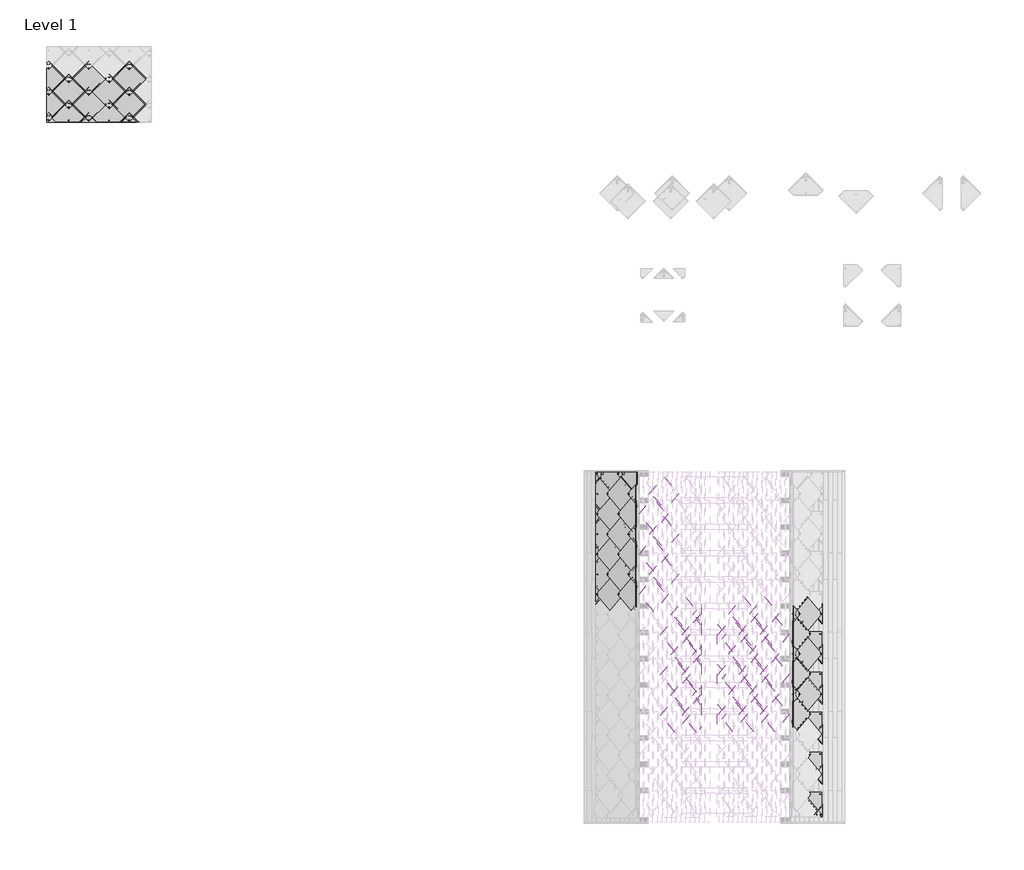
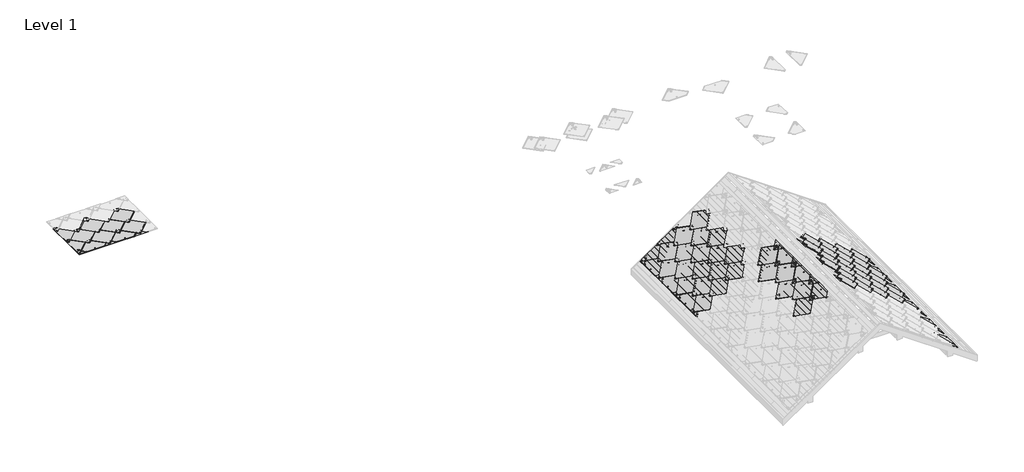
# One storey, part 5 of 6: 90 proxies.
"""IFC4 building model written with IfcOpenShell, lengths in millimetres."""

from ifc_helpers import new_model, si_unit, origin, place, context, project, spatial, transform, mapped, element, save
from components import generic_models_2e27a9fd, corner_bottom_big_right_black_b907a22d, corner_bottom_small_left_black_798ab3c3, roofing_panels_sunstyle_tile_non_pv_shingle_non_pv_shingle_be952c39, roofing_panels_sunstyle_tile_shingle_bottom_shingle_bottom_4eb983e8, roofing_panels_sunstyle_tile_shingle_bottom_small_shingle_761d3557, roofing_panels_sunstyle_tile_shingle_left_shingle_left_black_59aad734, roofing_panels_sunstyle_tile_shingle_top_shingle_top_black_4c6098d4, roofing_panels_sunstyle_tile_shingle_top_small_shingle_top_a40e7fca

model = new_model("IFC4")

# Units and contexts
model_context = context("Model", 3, world=origin())
ifc_project = project(units=[si_unit("LENGTHUNIT", "METRE", prefix="MILLI")], contexts=[model_context])

# Site, building, storey
site = spatial("IfcSite", under=ifc_project)
building = spatial("IfcBuilding", under=site)
storey = spatial("IfcBuildingStorey", under=building, Name="Level 1", Elevation=0.0)

# Proxies
placement = place(None, origin())
generic_models_shape = generic_models_2e27a9fd(model_context)
element("IfcBuildingElementProxy", 1, Name="Roofing_Solar-Panels_SunStyle_Shingle-Sunstyle : Shingle Sunstyle - Black", ObjectType="Roofing_Solar-Panels_SunStyle_Shingle-Sunstyle : Shingle Sunstyle - Black", at=placement, inside=storey, context=model_context, shape_type="MappedRepresentation", body=[
    mapped(generic_models_shape, transform((-308.6593094, 3253.9702738, 1769.3981017), x_axis=(0.0, -1.0, 0.0), y_axis=(0.8191520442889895, 0.0, 0.5735764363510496), z_axis=(-0.5735764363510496, 0.0, 0.8191520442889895))),
])
element("IfcBuildingElementProxy", 2, Name="Roofing_Solar-Panels_SunStyle_Shingle-Sunstyle : Shingle Sunstyle - Black", ObjectType="Roofing_Solar-Panels_SunStyle_Shingle-Sunstyle : Shingle Sunstyle - Black", at=placement, inside=storey, context=model_context, shape_type="MappedRepresentation", body=[
    mapped(generic_models_shape, transform((-958.5053556, 3254.19294, 1314.3710015), x_axis=(0.0, -1.0, 0.0), y_axis=(0.8191520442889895, 0.0, 0.5735764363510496), z_axis=(-0.5735764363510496, 0.0, 0.8191520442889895))),
])
element("IfcBuildingElementProxy", 3, Name="Roofing_Solar-Panels_SunStyle_Shingle-Sunstyle : Shingle Sunstyle - Black", ObjectType="Roofing_Solar-Panels_SunStyle_Shingle-Sunstyle : Shingle Sunstyle - Black", at=placement, inside=storey, context=model_context, shape_type="MappedRepresentation", body=[
    mapped(generic_models_shape, transform((-1608.1702227, 3253.5882893, 859.4707643), x_axis=(0.0, -1.0, 0.0), y_axis=(0.8191520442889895, 0.0, 0.5735764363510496), z_axis=(-0.5735764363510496, 0.0, 0.8191520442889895))),
])
element("IfcBuildingElementProxy", 4, Name="Roofing_Solar-Panels_SunStyle_Shingle-Sunstyle : Shingle Sunstyle - Black", ObjectType="Roofing_Solar-Panels_SunStyle_Shingle-Sunstyle : Shingle Sunstyle - Black", at=placement, inside=storey, context=model_context, shape_type="MappedRepresentation", body=[
    mapped(generic_models_shape, transform((-1264.7737463, 2645.4402376, 1099.9195656), x_axis=(0.0, -1.0, 0.0), y_axis=(0.8191520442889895, 0.0, 0.5735764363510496), z_axis=(-0.5735764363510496, 0.0, 0.8191520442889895))),
])
element("IfcBuildingElementProxy", 5, Name="Roofing_Solar-Panels_SunStyle_Shingle-Sunstyle : Shingle Sunstyle - Black", ObjectType="Roofing_Solar-Panels_SunStyle_Shingle-Sunstyle : Shingle Sunstyle - Black", at=placement, inside=storey, context=model_context, shape_type="MappedRepresentation", body=[
    mapped(generic_models_shape, transform((-1912.3807943, 2645.3657638, 646.4602288), x_axis=(0.0, -1.0, 0.0), y_axis=(0.8191520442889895, 0.0, 0.5735764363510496), z_axis=(-0.5735764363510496, 0.0, 0.8191520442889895))),
])
element("IfcBuildingElementProxy", 6, Name="Roofing_Solar-Panels_SunStyle_Shingle-Sunstyle : Shingle Sunstyle - Black", ObjectType="Roofing_Solar-Panels_SunStyle_Shingle-Sunstyle : Shingle Sunstyle - Black", at=placement, inside=storey, context=model_context, shape_type="MappedRepresentation", body=[
    mapped(generic_models_shape, transform((-617.0029647, 2645.5136672, 1553.4935499), x_axis=(0.0, -1.0, 0.0), y_axis=(0.8191520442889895, 0.0, 0.5735764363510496), z_axis=(-0.5735764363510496, 0.0, 0.8191520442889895))),
])
element("IfcBuildingElementProxy", 7, Name="Roofing_Solar-Panels_SunStyle_Shingle-Sunstyle : Shingle Sunstyle - Black", ObjectType="Roofing_Solar-Panels_SunStyle_Shingle-Sunstyle : Shingle Sunstyle - Black", at=placement, inside=storey, context=model_context, shape_type="MappedRepresentation", body=[
    mapped(generic_models_shape, transform((-617.0029647, 1425.9321402, 1553.4935499), x_axis=(0.0, -1.0, 0.0), y_axis=(0.8191520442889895, 0.0, 0.5735764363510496), z_axis=(-0.5735764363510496, 0.0, 0.8191520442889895))),
])
element("IfcBuildingElementProxy", 8, Name="Roofing_Solar-Panels_SunStyle_Shingle-Sunstyle : Shingle Sunstyle - Black", ObjectType="Roofing_Solar-Panels_SunStyle_Shingle-Sunstyle : Shingle Sunstyle - Black", at=placement, inside=storey, context=model_context, shape_type="MappedRepresentation", body=[
    mapped(generic_models_shape, transform((-308.6593094, 2034.3887468, 1769.3981017), x_axis=(0.0, -1.0, 0.0), y_axis=(0.8191520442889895, 0.0, 0.5735764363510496), z_axis=(-0.5735764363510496, 0.0, 0.8191520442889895))),
])
element("IfcBuildingElementProxy", 9, Name="Roofing_Solar-Panels_SunStyle_Shingle-Sunstyle : Shingle Sunstyle - Black", ObjectType="Roofing_Solar-Panels_SunStyle_Shingle-Sunstyle : Shingle Sunstyle - Black", at=placement, inside=storey, context=model_context, shape_type="MappedRepresentation", body=[
    mapped(generic_models_shape, transform((-617.0029647, 206.3506132, 1553.4935499), x_axis=(0.0, -1.0, 0.0), y_axis=(0.8191520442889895, 0.0, 0.5735764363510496), z_axis=(-0.5735764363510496, 0.0, 0.8191520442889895))),
])
element("IfcBuildingElementProxy", 10, Name="Roofing_Solar-Panels_SunStyle_Shingle-Sunstyle : Shingle Sunstyle - Black", ObjectType="Roofing_Solar-Panels_SunStyle_Shingle-Sunstyle : Shingle Sunstyle - Black", at=placement, inside=storey, context=model_context, shape_type="MappedRepresentation", body=[
    mapped(generic_models_shape, transform((-308.6593094, 814.8072199, 1769.3981017), x_axis=(0.0, -1.0, 0.0), y_axis=(0.8191520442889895, 0.0, 0.5735764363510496), z_axis=(-0.5735764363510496, 0.0, 0.8191520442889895))),
])
element("IfcBuildingElementProxy", 11, Name="Roofing_Solar-Panels_SunStyle_Shingle-Sunstyle : Shingle Sunstyle - Black", ObjectType="Roofing_Solar-Panels_SunStyle_Shingle-Sunstyle : Shingle Sunstyle - Black", at=placement, inside=storey, context=model_context, shape_type="MappedRepresentation", body=[
    mapped(generic_models_shape, transform((26.0313901, -1013.2309138, 2003.7510525), x_axis=(0.0, -1.0, 0.0), y_axis=(0.8191520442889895, 0.0, 0.5735764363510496), z_axis=(-0.5735764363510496, 0.0, 0.8191520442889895))),
])
element("IfcBuildingElementProxy", 12, Name="Roofing_Solar-Panels_SunStyle_Shingle-Sunstyle : Shingle Sunstyle - Black", ObjectType="Roofing_Solar-Panels_SunStyle_Shingle-Sunstyle : Shingle Sunstyle - Black", at=placement, inside=storey, context=model_context, shape_type="MappedRepresentation", body=[
    mapped(generic_models_shape, transform((26.0313901, -2232.8124407, 2003.7510525), x_axis=(0.0, -1.0, 0.0), y_axis=(0.8191520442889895, 0.0, 0.5735764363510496), z_axis=(-0.5735764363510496, 0.0, 0.8191520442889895))),
])
element("IfcBuildingElementProxy", 13, Name="Roofing_Solar-Panels_SunStyle_Shingle-Sunstyle : Shingle Sunstyle - Black", ObjectType="Roofing_Solar-Panels_SunStyle_Shingle-Sunstyle : Shingle Sunstyle - Black", at=placement, inside=storey, context=model_context, shape_type="MappedRepresentation", body=[
    mapped(generic_models_shape, transform((26.0313901, -3452.3939677, 2003.7510525), x_axis=(0.0, -1.0, 0.0), y_axis=(0.8191520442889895, 0.0, 0.5735764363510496), z_axis=(-0.5735764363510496, 0.0, 0.8191520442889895))),
])
element("IfcBuildingElementProxy", 14, Name="Roofing_Solar-Panels_SunStyle_Shingle-Sunstyle : Shingle Sunstyle - Black", ObjectType="Roofing_Solar-Panels_SunStyle_Shingle-Sunstyle : Shingle Sunstyle - Black", at=placement, inside=storey, context=model_context, shape_type="MappedRepresentation", body=[
    mapped(generic_models_shape, transform((345.4802975, -405.6712839, 2227.4315855), x_axis=(0.0, -1.0, 0.0), y_axis=(0.8191520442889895, 0.0, 0.5735764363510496), z_axis=(-0.5735764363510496, 0.0, 0.8191520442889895))),
])
element("IfcBuildingElementProxy", 15, Name="Roofing_Solar-Panels_SunStyle_Shingle-Sunstyle : Shingle Sunstyle - Black", ObjectType="Roofing_Solar-Panels_SunStyle_Shingle-Sunstyle : Shingle Sunstyle - Black", at=placement, inside=storey, context=model_context, shape_type="MappedRepresentation", body=[
    mapped(generic_models_shape, transform((345.4802975, -1625.2528109, 2227.4315855), x_axis=(0.0, -1.0, 0.0), y_axis=(0.8191520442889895, 0.0, 0.5735764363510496), z_axis=(-0.5735764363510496, 0.0, 0.8191520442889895))),
])
element("IfcBuildingElementProxy", 16, Name="Roofing_Solar-Panels_SunStyle_Shingle-Sunstyle : Shingle Sunstyle - Black", ObjectType="Roofing_Solar-Panels_SunStyle_Shingle-Sunstyle : Shingle Sunstyle - Black", at=placement, inside=storey, context=model_context, shape_type="MappedRepresentation", body=[
    mapped(generic_models_shape, transform((345.4802975, -2844.8343378, 2227.4315855), x_axis=(0.0, -1.0, 0.0), y_axis=(0.8191520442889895, 0.0, 0.5735764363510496), z_axis=(-0.5735764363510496, 0.0, 0.8191520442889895))),
])
element("IfcBuildingElementProxy", 17, Name="Roofing_Solar-Panels_SunStyle_Shingle-Sunstyle : Shingle Sunstyle - Black", ObjectType="Roofing_Solar-Panels_SunStyle_Shingle-Sunstyle : Shingle Sunstyle - Black", at=placement, inside=storey, context=model_context, shape_type="MappedRepresentation", body=[
    mapped(generic_models_shape, transform((2380.7504058, -996.1328432, 2008.4956718), x_axis=(0.0, 1.0, 0.0), y_axis=(-0.8191520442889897, 0.0, 0.5735764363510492), z_axis=(0.5735764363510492, 0.0, 0.8191520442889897))),
])
element("IfcBuildingElementProxy", 18, Name="Roofing_Solar-Panels_SunStyle_Shingle-Sunstyle : Shingle Sunstyle - Black", ObjectType="Roofing_Solar-Panels_SunStyle_Shingle-Sunstyle : Shingle Sunstyle - Black", at=placement, inside=storey, context=model_context, shape_type="MappedRepresentation", body=[
    mapped(generic_models_shape, transform((3018.9604222, -995.1134891, 1561.6162073), x_axis=(0.0, 1.0, 0.0), y_axis=(-0.8191520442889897, 0.0, 0.5735764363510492), z_axis=(0.5735764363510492, 0.0, 0.8191520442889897))),
])
element("IfcBuildingElementProxy", 19, Name="Roofing_Solar-Panels_SunStyle_Shingle-Sunstyle : Shingle Sunstyle - Black", ObjectType="Roofing_Solar-Panels_SunStyle_Shingle-Sunstyle : Shingle Sunstyle - Black", at=placement, inside=storey, context=model_context, shape_type="MappedRepresentation", body=[
    mapped(generic_models_shape, transform((2380.7504058, -2211.45106, 2008.4956718), x_axis=(0.0, 1.0, 0.0), y_axis=(-0.8191520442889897, 0.0, 0.5735764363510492), z_axis=(0.5735764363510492, 0.0, 0.8191520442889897))),
])
element("IfcBuildingElementProxy", 20, Name="Roofing_Solar-Panels_SunStyle_Shingle-Sunstyle : Shingle Sunstyle - Black", ObjectType="Roofing_Solar-Panels_SunStyle_Shingle-Sunstyle : Shingle Sunstyle - Black", at=placement, inside=storey, context=model_context, shape_type="MappedRepresentation", body=[
    mapped(generic_models_shape, transform((3018.9604222, -2210.4317059, 1561.6162073), x_axis=(0.0, 1.0, 0.0), y_axis=(-0.8191520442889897, 0.0, 0.5735764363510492), z_axis=(0.5735764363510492, 0.0, 0.8191520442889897))),
])
element("IfcBuildingElementProxy", 21, Name="Roofing_Solar-Panels_SunStyle_Shingle-Sunstyle : Shingle Sunstyle - Black", ObjectType="Roofing_Solar-Panels_SunStyle_Shingle-Sunstyle : Shingle Sunstyle - Black", at=placement, inside=storey, context=model_context, shape_type="MappedRepresentation", body=[
    mapped(generic_models_shape, transform((2699.8330605, -384.3228852, 1785.0715917), x_axis=(0.0, 1.0, 0.0), y_axis=(-0.8191520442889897, 0.0, 0.5735764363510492), z_axis=(0.5735764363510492, 0.0, 0.8191520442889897))),
])
element("IfcBuildingElementProxy", 22, Name="Roofing_Solar-Panels_SunStyle_Shingle-Sunstyle : Shingle Sunstyle - Black", ObjectType="Roofing_Solar-Panels_SunStyle_Shingle-Sunstyle : Shingle Sunstyle - Black", at=placement, inside=storey, context=model_context, shape_type="MappedRepresentation", body=[
    mapped(generic_models_shape, transform((2059.0171476, -384.3228852, 2233.7757245), x_axis=(0.0, 1.0, 0.0), y_axis=(-0.8191520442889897, 0.0, 0.5735764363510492), z_axis=(0.5735764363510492, 0.0, 0.8191520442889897))),
])
element("IfcBuildingElementProxy", 23, Name="Roofing_Solar-Panels_SunStyle_Shingle-Sunstyle : Shingle Sunstyle - Black", ObjectType="Roofing_Solar-Panels_SunStyle_Shingle-Sunstyle : Shingle Sunstyle - Black", at=placement, inside=storey, context=model_context, shape_type="MappedRepresentation", body=[
    mapped(generic_models_shape, transform((2699.8330605, -1599.641102, 1785.0715917), x_axis=(0.0, 1.0, 0.0), y_axis=(-0.8191520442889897, 0.0, 0.5735764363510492), z_axis=(0.5735764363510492, 0.0, 0.8191520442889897))),
])
element("IfcBuildingElementProxy", 24, Name="Roofing_Solar-Panels_SunStyle_Shingle-Sunstyle : Shingle Sunstyle - Black", ObjectType="Roofing_Solar-Panels_SunStyle_Shingle-Sunstyle : Shingle Sunstyle - Black", at=placement, inside=storey, context=model_context, shape_type="MappedRepresentation", body=[
    mapped(generic_models_shape, transform((2059.0171476, -1599.641102, 2233.7757245), x_axis=(0.0, 1.0, 0.0), y_axis=(-0.8191520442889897, 0.0, 0.5735764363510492), z_axis=(0.5735764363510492, 0.0, 0.8191520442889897))),
])
element("IfcBuildingElementProxy", 25, Name="Roofing_Solar-Panels_SunStyle_Shingle-Sunstyle : Shingle Sunstyle - Black", ObjectType="Roofing_Solar-Panels_SunStyle_Shingle-Sunstyle : Shingle Sunstyle - Black", at=placement, inside=storey, context=model_context, shape_type="MappedRepresentation", body=[
    mapped(generic_models_shape, transform((2699.8330605, -2814.9593188, 1785.0715917), x_axis=(0.0, 1.0, 0.0), y_axis=(-0.8191520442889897, 0.0, 0.5735764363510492), z_axis=(0.5735764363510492, 0.0, 0.8191520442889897))),
])
element("IfcBuildingElementProxy", 26, Name="Roofing_Solar-Panels_SunStyle_Shingle-Sunstyle : Shingle Sunstyle - Black", ObjectType="Roofing_Solar-Panels_SunStyle_Shingle-Sunstyle : Shingle Sunstyle - Black", at=placement, inside=storey, context=model_context, shape_type="MappedRepresentation", body=[
    mapped(generic_models_shape, transform((2059.0171476, -2814.9593188, 2233.7757245), x_axis=(0.0, 1.0, 0.0), y_axis=(-0.8191520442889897, 0.0, 0.5735764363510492), z_axis=(0.5735764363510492, 0.0, 0.8191520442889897))),
])
element("IfcBuildingElementProxy", 27, Name="Roofing_Solar-Panels_SunStyle_Shingle-Sunstyle : Shingle Sunstyle - Black", ObjectType="Roofing_Solar-Panels_SunStyle_Shingle-Sunstyle : Shingle Sunstyle - Black", at=placement, inside=storey, context=model_context, shape_type="MappedRepresentation", body=[
    mapped(generic_models_shape, transform((2380.7504058, -3426.7692768, 2008.4956718), x_axis=(0.0, 1.0, 0.0), y_axis=(-0.8191520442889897, 0.0, 0.5735764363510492), z_axis=(0.5735764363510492, 0.0, 0.8191520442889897))),
])
element("IfcBuildingElementProxy", 28, Name="Roofing_Solar-Panels_SunStyle_Shingle-Sunstyle : Shingle Sunstyle - Black", ObjectType="Roofing_Solar-Panels_SunStyle_Shingle-Sunstyle : Shingle Sunstyle - Black", at=placement, inside=storey, context=model_context, shape_type="MappedRepresentation", body=[
    mapped(generic_models_shape, transform((3018.9604222, -3425.7499227, 1561.6162073), x_axis=(0.0, 1.0, 0.0), y_axis=(-0.8191520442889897, 0.0, 0.5735764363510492), z_axis=(0.5735764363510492, 0.0, 0.8191520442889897))),
])
element("IfcBuildingElementProxy", 29, Name="Roofing_Solar-Panels_SunStyle_Shingle-Sunstyle : Shingle Sunstyle - Black", ObjectType="Roofing_Solar-Panels_SunStyle_Shingle-Sunstyle : Shingle Sunstyle - Black", at=placement, inside=storey, context=model_context, shape_type="MappedRepresentation", body=[
    mapped(generic_models_shape, transform((-958.5053556, 2034.19294, 1314.3710015), x_axis=(0.0, -1.0, 0.0), y_axis=(0.8191520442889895, 0.0, 0.5735764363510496), z_axis=(-0.5735764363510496, 0.0, 0.8191520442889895))),
])
element("IfcBuildingElementProxy", 30, Name="Roofing_Solar-Panels_SunStyle_Shingle-Sunstyle : Shingle Sunstyle - Black", ObjectType="Roofing_Solar-Panels_SunStyle_Shingle-Sunstyle : Shingle Sunstyle - Black", at=placement, inside=storey, context=model_context, shape_type="MappedRepresentation", body=[
    mapped(generic_models_shape, transform((-1608.1702227, 2033.5882893, 859.4707643), x_axis=(0.0, -1.0, 0.0), y_axis=(0.8191520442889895, 0.0, 0.5735764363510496), z_axis=(-0.5735764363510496, 0.0, 0.8191520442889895))),
])
element("IfcBuildingElementProxy", 31, Name="Roofing_Solar-Panels_SunStyle_Shingle-Sunstyle : Shingle Sunstyle - Black", ObjectType="Roofing_Solar-Panels_SunStyle_Shingle-Sunstyle : Shingle Sunstyle - Black", at=placement, inside=storey, context=model_context, shape_type="MappedRepresentation", body=[
    mapped(generic_models_shape, transform((-958.5053556, 814.984463, 1314.3710015), x_axis=(0.0, -1.0, 0.0), y_axis=(0.8191520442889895, 0.0, 0.5735764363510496), z_axis=(-0.5735764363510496, 0.0, 0.8191520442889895))),
])
element("IfcBuildingElementProxy", 32, Name="Roofing_Solar-Panels_SunStyle_Shingle-Sunstyle : Shingle Sunstyle - Black", ObjectType="Roofing_Solar-Panels_SunStyle_Shingle-Sunstyle : Shingle Sunstyle - Black", at=placement, inside=storey, context=model_context, shape_type="MappedRepresentation", body=[
    mapped(generic_models_shape, transform((-1608.1702227, 814.3798123, 859.4707643), x_axis=(0.0, -1.0, 0.0), y_axis=(0.8191520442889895, 0.0, 0.5735764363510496), z_axis=(-0.5735764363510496, 0.0, 0.8191520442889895))),
])
element("IfcBuildingElementProxy", 33, Name="Roofing_Solar-Panels_SunStyle_Shingle-Sunstyle : Shingle Sunstyle - Black", ObjectType="Roofing_Solar-Panels_SunStyle_Shingle-Sunstyle : Shingle Sunstyle - Black", at=placement, inside=storey, context=model_context, shape_type="MappedRepresentation", body=[
    mapped(generic_models_shape, transform((-1264.7737463, 1425.4402376, 1099.9195656), x_axis=(0.0, -1.0, 0.0), y_axis=(0.8191520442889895, 0.0, 0.5735764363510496), z_axis=(-0.5735764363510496, 0.0, 0.8191520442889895))),
])
element("IfcBuildingElementProxy", 34, Name="Roofing_Solar-Panels_SunStyle_Shingle-Sunstyle : Shingle Sunstyle - Black", ObjectType="Roofing_Solar-Panels_SunStyle_Shingle-Sunstyle : Shingle Sunstyle - Black", at=placement, inside=storey, context=model_context, shape_type="MappedRepresentation", body=[
    mapped(generic_models_shape, transform((-1912.3807943, 1425.3657638, 646.4602288), x_axis=(0.0, -1.0, 0.0), y_axis=(0.8191520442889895, 0.0, 0.5735764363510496), z_axis=(-0.5735764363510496, 0.0, 0.8191520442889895))),
])
element("IfcBuildingElementProxy", 35, Name="Roofing_Solar-Panels_SunStyle_Shingle-Sunstyle : Shingle Sunstyle - Black", ObjectType="Roofing_Solar-Panels_SunStyle_Shingle-Sunstyle : Shingle Sunstyle - Black", at=placement, inside=storey, context=model_context, shape_type="MappedRepresentation", body=[
    mapped(generic_models_shape, transform((-1264.7737463, 205.4402376, 1099.9195656), x_axis=(0.0, -1.0, 0.0), y_axis=(0.8191520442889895, 0.0, 0.5735764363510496), z_axis=(-0.5735764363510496, 0.0, 0.8191520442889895))),
])
element("IfcBuildingElementProxy", 36, Name="Roofing_Solar-Panels_SunStyle_Shingle-Sunstyle : Shingle Sunstyle - Black", ObjectType="Roofing_Solar-Panels_SunStyle_Shingle-Sunstyle : Shingle Sunstyle - Black", at=placement, inside=storey, context=model_context, shape_type="MappedRepresentation", body=[
    mapped(generic_models_shape, transform((-1912.3807943, 205.3657638, 646.4602288), x_axis=(0.0, -1.0, 0.0), y_axis=(0.8191520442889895, 0.0, 0.5735764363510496), z_axis=(-0.5735764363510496, 0.0, 0.8191520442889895))),
])
element("IfcBuildingElementProxy", 37, Name="Roofing_Solar-Panels_SunStyle_Shingle-Sunstyle : Shingle Sunstyle - Black", ObjectType="Roofing_Solar-Panels_SunStyle_Shingle-Sunstyle : Shingle Sunstyle - Black", at=placement, inside=storey, context=model_context, shape_type="MappedRepresentation", body=[
    mapped(generic_models_shape, transform((3347.42815, -384.1761504, 1331.6206283), x_axis=(0.0, 1.0, 0.0), y_axis=(-0.8191520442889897, 0.0, 0.5735764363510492), z_axis=(0.5735764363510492, 0.0, 0.8191520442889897))),
])
element("IfcBuildingElementProxy", 38, Name="Roofing_Solar-Panels_SunStyle_Shingle-Sunstyle : Shingle Sunstyle - Black", ObjectType="Roofing_Solar-Panels_SunStyle_Shingle-Sunstyle : Shingle Sunstyle - Black", at=placement, inside=storey, context=model_context, shape_type="MappedRepresentation", body=[
    mapped(generic_models_shape, transform((3994.6556947, -384.406562, 878.4270226), x_axis=(0.0, 1.0, 0.0), y_axis=(-0.8191520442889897, 0.0, 0.5735764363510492), z_axis=(0.5735764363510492, 0.0, 0.8191520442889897))),
])
element("IfcBuildingElementProxy", 39, Name="Roofing_Solar-Panels_SunStyle_Shingle-Sunstyle : Shingle Sunstyle - Black", ObjectType="Roofing_Solar-Panels_SunStyle_Shingle-Sunstyle : Shingle Sunstyle - Black", at=placement, inside=storey, context=model_context, shape_type="MappedRepresentation", body=[
    mapped(generic_models_shape, transform((3668.6586054, -990.8381584, 1106.6926419), x_axis=(0.0, 1.0, 0.0), y_axis=(-0.8191520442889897, 0.0, 0.5735764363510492), z_axis=(0.5735764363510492, 0.0, 0.8191520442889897))),
])
element("IfcBuildingElementProxy", 40, Name="Roofing_Solar-Panels_SunStyle_Shingle-Sunstyle : Shingle Sunstyle - Black", ObjectType="Roofing_Solar-Panels_SunStyle_Shingle-Sunstyle : Shingle Sunstyle - Black", at=placement, inside=storey, context=model_context, shape_type="MappedRepresentation", body=[
    mapped(generic_models_shape, transform((3347.42815, -1599.7013354, 1331.6206283), x_axis=(0.0, 1.0, 0.0), y_axis=(-0.8191520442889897, 0.0, 0.5735764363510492), z_axis=(0.5735764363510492, 0.0, 0.8191520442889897))),
])
element("IfcBuildingElementProxy", 41, Name="Roofing_Solar-Panels_SunStyle_Shingle-Sunstyle : Shingle Sunstyle - Black", ObjectType="Roofing_Solar-Panels_SunStyle_Shingle-Sunstyle : Shingle Sunstyle - Black", at=placement, inside=storey, context=model_context, shape_type="MappedRepresentation", body=[
    mapped(generic_models_shape, transform((3994.6556947, -1599.9317469, 878.4270226), x_axis=(0.0, 1.0, 0.0), y_axis=(-0.8191520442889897, 0.0, 0.5735764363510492), z_axis=(0.5735764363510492, 0.0, 0.8191520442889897))),
])
element("IfcBuildingElementProxy", 42, Name="Roofing_Solar-Panels_SunStyle_Shingle-Sunstyle : Shingle Sunstyle - Black", ObjectType="Roofing_Solar-Panels_SunStyle_Shingle-Sunstyle : Shingle Sunstyle - Black", at=placement, inside=storey, context=model_context, shape_type="MappedRepresentation", body=[
    mapped(generic_models_shape, transform((3668.6586054, -2206.3633434, 1106.6926419), x_axis=(0.0, 1.0, 0.0), y_axis=(-0.8191520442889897, 0.0, 0.5735764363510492), z_axis=(0.5735764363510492, 0.0, 0.8191520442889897))),
])
element("IfcBuildingElementProxy", 43, Name="Roofing_Solar-Panels_SunStyle_Shingle-Sunstyle : Shingle Sunstyle - Black", ObjectType="Roofing_Solar-Panels_SunStyle_Shingle-Sunstyle : Shingle Sunstyle - Black", at=placement, inside=storey, context=model_context, shape_type="MappedRepresentation", body=[
    mapped(generic_models_shape, transform((3347.42815, -2814.7013354, 1331.6206283), x_axis=(0.0, 1.0, 0.0), y_axis=(-0.8191520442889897, 0.0, 0.5735764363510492), z_axis=(0.5735764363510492, 0.0, 0.8191520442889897))),
])
element("IfcBuildingElementProxy", 44, Name="Roofing_Solar-Panels_SunStyle_Shingle-Sunstyle : Shingle Sunstyle - Black", ObjectType="Roofing_Solar-Panels_SunStyle_Shingle-Sunstyle : Shingle Sunstyle - Black", at=placement, inside=storey, context=model_context, shape_type="MappedRepresentation", body=[
    mapped(generic_models_shape, transform((3994.6556947, -2814.9317469, 878.4270226), x_axis=(0.0, 1.0, 0.0), y_axis=(-0.8191520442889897, 0.0, 0.5735764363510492), z_axis=(0.5735764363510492, 0.0, 0.8191520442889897))),
])
element("IfcBuildingElementProxy", 45, Name="Roofing_Solar-Panels_SunStyle_Shingle-Sunstyle : Shingle Sunstyle - Black", ObjectType="Roofing_Solar-Panels_SunStyle_Shingle-Sunstyle : Shingle Sunstyle - Black", at=placement, inside=storey, context=model_context, shape_type="MappedRepresentation", body=[
    mapped(generic_models_shape, transform((3668.6586054, -3421.3633434, 1106.6926419), x_axis=(0.0, 1.0, 0.0), y_axis=(-0.8191520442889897, 0.0, 0.5735764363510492), z_axis=(0.5735764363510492, 0.0, 0.8191520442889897))),
])
element("IfcBuildingElementProxy", 46, Name="Roofing_Solar-Panels_SunStyle_Shingle-Sunstyle : Shingle Sunstyle - Black", ObjectType="Roofing_Solar-Panels_SunStyle_Shingle-Sunstyle : Shingle Sunstyle - Black", at=placement, inside=storey, context=model_context, shape_type="MappedRepresentation", body=[
    mapped(generic_models_shape, transform((1745.7492441, -1000.8711077, 2453.128272), x_axis=(0.0, 1.0, 0.0), y_axis=(-0.8191520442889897, 0.0, 0.5735764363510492), z_axis=(0.5735764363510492, 0.0, 0.8191520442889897))),
])
element("IfcBuildingElementProxy", 47, Name="Roofing_Solar-Panels_SunStyle_Shingle-Sunstyle : Shingle Sunstyle - Black", ObjectType="Roofing_Solar-Panels_SunStyle_Shingle-Sunstyle : Shingle Sunstyle - Black", at=placement, inside=storey, context=model_context, shape_type="MappedRepresentation", body=[
    mapped(generic_models_shape, transform((1745.7492441, -2210.8711077, 2453.128272), x_axis=(0.0, 1.0, 0.0), y_axis=(-0.8191520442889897, 0.0, 0.5735764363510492), z_axis=(0.5735764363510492, 0.0, 0.8191520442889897))),
])
element("IfcBuildingElementProxy", 48, Name="Roofing_Solar-Panels_SunStyle_Shingle-Sunstyle : Shingle Sunstyle - Black", ObjectType="Roofing_Solar-Panels_SunStyle_Shingle-Sunstyle : Shingle Sunstyle - Black", at=placement, inside=storey, context=model_context, shape_type="MappedRepresentation", body=[
    mapped(generic_models_shape, transform((1745.7492441, -3425.8711077, 2453.128272), x_axis=(0.0, 1.0, 0.0), y_axis=(-0.8191520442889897, 0.0, 0.5735764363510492), z_axis=(0.5735764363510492, 0.0, 0.8191520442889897))),
])
corner_bottom_big_right_black_shape = corner_bottom_big_right_black_b907a22d(model_context)
element("IfcBuildingElementProxy", 49, Name="Roofing_Panels_SunStyle_Tile_Corner-Bottom-Big-Right : Corner Bottom Big Right - Black", ObjectType="Roofing_Panels_SunStyle_Tile_Corner-Bottom-Big-Right : Corner Bottom Big Right - Black", at=placement, inside=storey, context=model_context, shape_type="MappedRepresentation", body=[
    mapped(corner_bottom_big_right_black_shape, transform((4392.2243906, -990.8381584, 600.0464247), x_axis=(0.0, 1.0, 0.0), y_axis=(-0.8191520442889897, 0.0, 0.5735764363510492), z_axis=(0.5735764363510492, 0.0, 0.8191520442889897))),
])
element("IfcBuildingElementProxy", 50, Name="Roofing_Panels_SunStyle_Tile_Corner-Bottom-Big-Right : Corner Bottom Big Right - Black", ObjectType="Roofing_Panels_SunStyle_Tile_Corner-Bottom-Big-Right : Corner Bottom Big Right - Black", at=placement, inside=storey, context=model_context, shape_type="MappedRepresentation", body=[
    mapped(corner_bottom_big_right_black_shape, transform((4392.2243906, -2206.3633434, 600.0464247), x_axis=(0.0, 1.0, 0.0), y_axis=(-0.8191520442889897, 0.0, 0.5735764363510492), z_axis=(0.5735764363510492, 0.0, 0.8191520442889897))),
])
element("IfcBuildingElementProxy", 51, Name="Roofing_Panels_SunStyle_Tile_Corner-Bottom-Big-Right : Corner Bottom Big Right - Black", ObjectType="Roofing_Panels_SunStyle_Tile_Corner-Bottom-Big-Right : Corner Bottom Big Right - Black", at=placement, inside=storey, context=model_context, shape_type="MappedRepresentation", body=[
    mapped(corner_bottom_big_right_black_shape, transform((4392.2243906, -3421.3633434, 600.0464247), x_axis=(0.0, 1.0, 0.0), y_axis=(-0.8191520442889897, 0.0, 0.5735764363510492), z_axis=(0.5735764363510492, 0.0, 0.8191520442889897))),
])
element("IfcBuildingElementProxy", 52, Name="Roofing_Panels_SunStyle_Tile_Corner-Bottom-Big-Right : Corner Bottom Big Right - Black", ObjectType="Roofing_Panels_SunStyle_Tile_Corner-Bottom-Big-Right : Corner Bottom Big Right - Black", at=placement, inside=storey, context=model_context, shape_type="MappedRepresentation", body=[
    mapped(corner_bottom_big_right_black_shape, transform((4392.2243906, -4636.3633434, 600.0464247), x_axis=(0.0, 1.0, 0.0), y_axis=(-0.8191520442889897, 0.0, 0.5735764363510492), z_axis=(0.5735764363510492, 0.0, 0.8191520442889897))),
])
element("IfcBuildingElementProxy", 53, Name="Roofing_Panels_SunStyle_Tile_Corner-Bottom-Big-Right : Corner Bottom Big Right - Black", ObjectType="Roofing_Panels_SunStyle_Tile_Corner-Bottom-Big-Right : Corner Bottom Big Right - Black", at=placement, inside=storey, context=model_context, shape_type="MappedRepresentation", body=[
    mapped(corner_bottom_big_right_black_shape, transform((4392.2243906, -5851.3633434, 600.0464247), x_axis=(0.0, 1.0, 0.0), y_axis=(-0.8191520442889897, 0.0, 0.5735764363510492), z_axis=(0.5735764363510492, 0.0, 0.8191520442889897))),
])
corner_bottom_small_left_black_shape = corner_bottom_small_left_black_798ab3c3(model_context)
element("IfcBuildingElementProxy", 54, Name="Roofing_Panels_SunStyle_Tile_Corner-Bottom-Small-Left : Corner Bottom Small Left - Black", ObjectType="Roofing_Panels_SunStyle_Tile_Corner-Bottom-Small-Left : Corner Bottom Small Left - Black", at=placement, inside=storey, context=model_context, shape_type="MappedRepresentation", body=[
    mapped(corner_bottom_small_left_black_shape, transform((-2645.2878311, 3865.0951942, 133.2731968), x_axis=(0.0, -1.0, 0.0), y_axis=(0.8191520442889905, 0.0, 0.5735764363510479), z_axis=(-0.5735764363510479, 0.0, 0.8191520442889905))),
])
element("IfcBuildingElementProxy", 55, Name="Roofing_Panels_SunStyle_Tile_Corner-Bottom-Small-Left : Corner Bottom Small Left - Black", ObjectType="Roofing_Panels_SunStyle_Tile_Corner-Bottom-Small-Left : Corner Bottom Small Left - Black", at=placement, inside=storey, context=model_context, shape_type="MappedRepresentation", body=[
    mapped(corner_bottom_small_left_black_shape, transform((4722.7400772, -6467.9320566, 368.6168495), x_axis=(0.0, 1.0, 0.0), y_axis=(-0.8191520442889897, 0.0, 0.5735764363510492), z_axis=(0.5735764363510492, 0.0, 0.8191520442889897))),
])
element("IfcBuildingElementProxy", 56, Name="Roofing_Panels_SunStyle_Tile_Corner-Bottom-Small-Left : Corner Bottom Small Left - Black", ObjectType="Roofing_Panels_SunStyle_Tile_Corner-Bottom-Small-Left : Corner Bottom Small Left - Black", at=placement, inside=storey, context=model_context, shape_type="MappedRepresentation", body=[
    mapped(corner_bottom_small_left_black_shape, transform((-18987.0193526, 14216.490861, 0.0), x_axis=(1.0, 0.0, 0.0), y_axis=(0.0, 1.0, 0.0), z_axis=(0.0, 0.0, 1.0))),
])
roofing_panels_sunstyle_tile_non_pv_shingle_non_pv_shingle_shape = roofing_panels_sunstyle_tile_non_pv_shingle_non_pv_shingle_be952c39(model_context)
element("IfcBuildingElementProxy", 57, Name="Roofing_Panels_SunStyle_Tile_Non-PV-Shingle : Non PV Shingle - Black", ObjectType="Roofing_Panels_SunStyle_Tile_Non-PV-Shingle : Non PV Shingle - Black", at=placement, inside=storey, context=model_context, shape_type="MappedRepresentation", body=[
    mapped(roofing_panels_sunstyle_tile_non_pv_shingle_non_pv_shingle_shape, transform((-16541.4625549, 15859.3976163, 0.0), x_axis=(1.0, 0.0, 0.0), y_axis=(0.0, 1.0, 0.0), z_axis=(0.0, 0.0, 1.0))),
])
element("IfcBuildingElementProxy", 58, Name="Roofing_Panels_SunStyle_Tile_Non-PV-Shingle : Non PV Shingle - Black", ObjectType="Roofing_Panels_SunStyle_Tile_Non-PV-Shingle : Non PV Shingle - Black", at=placement, inside=storey, context=model_context, shape_type="MappedRepresentation", body=[
    mapped(roofing_panels_sunstyle_tile_non_pv_shingle_non_pv_shingle_shape, transform((-17764.4246151, 15861.2891061, 0.0), x_axis=(1.0, 0.0, 0.0), y_axis=(0.0, 1.0, 0.0), z_axis=(0.0, 0.0, 1.0))),
])
element("IfcBuildingElementProxy", 59, Name="Roofing_Panels_SunStyle_Tile_Non-PV-Shingle : Non PV Shingle - Black", ObjectType="Roofing_Panels_SunStyle_Tile_Non-PV-Shingle : Non PV Shingle - Black", at=placement, inside=storey, context=model_context, shape_type="MappedRepresentation", body=[
    mapped(roofing_panels_sunstyle_tile_non_pv_shingle_non_pv_shingle_shape, transform((-18375.6614882, 15465.802766, 0.0), x_axis=(1.0, 0.0, 0.0), y_axis=(0.0, 1.0, 0.0), z_axis=(0.0, 0.0, 1.0))),
])
element("IfcBuildingElementProxy", 60, Name="Roofing_Panels_SunStyle_Tile_Non-PV-Shingle : Non PV Shingle - Black", ObjectType="Roofing_Panels_SunStyle_Tile_Non-PV-Shingle : Non PV Shingle - Black", at=placement, inside=storey, context=model_context, shape_type="MappedRepresentation", body=[
    mapped(roofing_panels_sunstyle_tile_non_pv_shingle_non_pv_shingle_shape, transform((-17764.4246151, 15073.1445066, 0.0), x_axis=(1.0, 0.0, 0.0), y_axis=(0.0, 1.0, 0.0), z_axis=(0.0, 0.0, 1.0))),
])
element("IfcBuildingElementProxy", 61, Name="Roofing_Panels_SunStyle_Tile_Non-PV-Shingle : Non PV Shingle - Black", ObjectType="Roofing_Panels_SunStyle_Tile_Non-PV-Shingle : Non PV Shingle - Black", at=placement, inside=storey, context=model_context, shape_type="MappedRepresentation", body=[
    mapped(roofing_panels_sunstyle_tile_non_pv_shingle_non_pv_shingle_shape, transform((-17152.8625549, 15466.1580316, 0.0), x_axis=(1.0, 0.0, 0.0), y_axis=(0.0, 1.0, 0.0), z_axis=(0.0, 0.0, 1.0))),
])
element("IfcBuildingElementProxy", 62, Name="Roofing_Panels_SunStyle_Tile_Non-PV-Shingle : Non PV Shingle - Black", ObjectType="Roofing_Panels_SunStyle_Tile_Non-PV-Shingle : Non PV Shingle - Black", at=placement, inside=storey, context=model_context, shape_type="MappedRepresentation", body=[
    mapped(roofing_panels_sunstyle_tile_non_pv_shingle_non_pv_shingle_shape, transform((-16541.4625549, 15071.2530167, 0.0), x_axis=(1.0, 0.0, 0.0), y_axis=(0.0, 1.0, 0.0), z_axis=(0.0, 0.0, 1.0))),
])
roofing_panels_sunstyle_tile_shingle_bottom_shingle_bottom_shape = roofing_panels_sunstyle_tile_shingle_bottom_shingle_bottom_4eb983e8(model_context)
element("IfcBuildingElementProxy", 63, Name="Roofing_Panels_SunStyle_Tile_Shingle-Bottom : Shingle Bottom - Black", ObjectType="Roofing_Panels_SunStyle_Tile_Shingle-Bottom : Shingle Bottom - Black", at=placement, inside=storey, context=model_context, shape_type="MappedRepresentation", body=[
    mapped(roofing_panels_sunstyle_tile_shingle_bottom_shingle_bottom_shape, transform((-2327.2401314, 3251.7043485, 355.9725936), x_axis=(0.0, -1.0, 0.0), y_axis=(0.8191520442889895, 0.0, 0.5735764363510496), z_axis=(-0.5735764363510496, 0.0, 0.8191520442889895))),
])
element("IfcBuildingElementProxy", 64, Name="Roofing_Panels_SunStyle_Tile_Shingle-Bottom : Shingle Bottom - Black", ObjectType="Roofing_Panels_SunStyle_Tile_Shingle-Bottom : Shingle Bottom - Black", at=placement, inside=storey, context=model_context, shape_type="MappedRepresentation", body=[
    mapped(roofing_panels_sunstyle_tile_shingle_bottom_shingle_bottom_shape, transform((-18375.6614882, 14589.6224983, 0.0), x_axis=(1.0, 0.0, 0.0), y_axis=(0.0, 1.0, 0.0), z_axis=(0.0, 0.0, 1.0))),
])
element("IfcBuildingElementProxy", 65, Name="Roofing_Panels_SunStyle_Tile_Shingle-Bottom : Shingle Bottom - Black", ObjectType="Roofing_Panels_SunStyle_Tile_Shingle-Bottom : Shingle Bottom - Black", at=placement, inside=storey, context=model_context, shape_type="MappedRepresentation", body=[
    mapped(roofing_panels_sunstyle_tile_shingle_bottom_shingle_bottom_shape, transform((-17152.8622323, 14586.6703303, 0.0), x_axis=(1.0, 0.0, 0.0), y_axis=(0.0, 1.0, 0.0), z_axis=(0.0, 0.0, 1.0))),
])
element("IfcBuildingElementProxy", 66, Name="Roofing_Panels_SunStyle_Tile_Shingle-Bottom : Shingle Bottom - Black", ObjectType="Roofing_Panels_SunStyle_Tile_Shingle-Bottom : Shingle Bottom - Black", at=placement, inside=storey, context=model_context, shape_type="MappedRepresentation", body=[
    mapped(roofing_panels_sunstyle_tile_shingle_bottom_shingle_bottom_shape, transform((-2327.2401314, 2031.7043485, 355.9725936), x_axis=(0.0, -1.0, 0.0), y_axis=(0.8191520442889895, 0.0, 0.5735764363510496), z_axis=(-0.5735764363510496, 0.0, 0.8191520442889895))),
])
element("IfcBuildingElementProxy", 67, Name="Roofing_Panels_SunStyle_Tile_Shingle-Bottom : Shingle Bottom - Black", ObjectType="Roofing_Panels_SunStyle_Tile_Shingle-Bottom : Shingle Bottom - Black", at=placement, inside=storey, context=model_context, shape_type="MappedRepresentation", body=[
    mapped(roofing_panels_sunstyle_tile_shingle_bottom_shingle_bottom_shape, transform((-2327.2401314, 812.4958715, 355.9725936), x_axis=(0.0, -1.0, 0.0), y_axis=(0.8191520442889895, 0.0, 0.5735764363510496), z_axis=(-0.5735764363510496, 0.0, 0.8191520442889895))),
])
roofing_panels_sunstyle_tile_shingle_bottom_small_shingle_shape = roofing_panels_sunstyle_tile_shingle_bottom_small_shingle_761d3557(model_context)
element("IfcBuildingElementProxy", 68, Name="Roofing_Panels_SunStyle_Tile_Shingle-Bottom-Small : Shingle Bottom Small - Black", ObjectType="Roofing_Panels_SunStyle_Tile_Shingle-Bottom-Small : Shingle Bottom Small - Black", at=placement, inside=storey, context=model_context, shape_type="MappedRepresentation", body=[
    mapped(roofing_panels_sunstyle_tile_shingle_bottom_small_shingle_shape, transform((-2650.527822, 2645.491671, 129.6041157), x_axis=(0.0, -1.0, 0.0), y_axis=(0.8191520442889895, 0.0, 0.5735764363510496), z_axis=(-0.5735764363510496, 0.0, 0.8191520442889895))),
])
element("IfcBuildingElementProxy", 69, Name="Roofing_Panels_SunStyle_Tile_Shingle-Bottom-Small : Shingle Bottom Small - Black", ObjectType="Roofing_Panels_SunStyle_Tile_Shingle-Bottom-Small : Shingle Bottom Small - Black", at=placement, inside=storey, context=model_context, shape_type="MappedRepresentation", body=[
    mapped(roofing_panels_sunstyle_tile_shingle_bottom_small_shingle_shape, transform((-17764.4246151, 14197.3618967, 0.0), x_axis=(1.0, 0.0, 0.0), y_axis=(0.0, 1.0, 0.0), z_axis=(0.0, 0.0, 1.0))),
])
element("IfcBuildingElementProxy", 70, Name="Roofing_Panels_SunStyle_Tile_Shingle-Bottom-Small : Shingle Bottom Small - Black", ObjectType="Roofing_Panels_SunStyle_Tile_Shingle-Bottom-Small : Shingle Bottom Small - Black", at=placement, inside=storey, context=model_context, shape_type="MappedRepresentation", body=[
    mapped(roofing_panels_sunstyle_tile_shingle_bottom_small_shingle_shape, transform((-16541.4625549, 14195.4704069, 0.0), x_axis=(1.0, 0.0, 0.0), y_axis=(0.0, 1.0, 0.0), z_axis=(0.0, 0.0, 1.0))),
])
element("IfcBuildingElementProxy", 71, Name="Roofing_Panels_SunStyle_Tile_Shingle-Bottom-Small : Shingle Bottom Small - Black", ObjectType="Roofing_Panels_SunStyle_Tile_Shingle-Bottom-Small : Shingle Bottom Small - Black", at=placement, inside=storey, context=model_context, shape_type="MappedRepresentation", body=[
    mapped(roofing_panels_sunstyle_tile_shingle_bottom_small_shingle_shape, transform((-2650.527822, 1425.491671, 129.6041157), x_axis=(0.0, -1.0, 0.0), y_axis=(0.8191520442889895, 0.0, 0.5735764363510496), z_axis=(-0.5735764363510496, 0.0, 0.8191520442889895))),
])
element("IfcBuildingElementProxy", 72, Name="Roofing_Panels_SunStyle_Tile_Shingle-Bottom-Small : Shingle Bottom Small - Black", ObjectType="Roofing_Panels_SunStyle_Tile_Shingle-Bottom-Small : Shingle Bottom Small - Black", at=placement, inside=storey, context=model_context, shape_type="MappedRepresentation", body=[
    mapped(roofing_panels_sunstyle_tile_shingle_bottom_small_shingle_shape, transform((-2650.527822, 205.491671, 129.6041157), x_axis=(0.0, -1.0, 0.0), y_axis=(0.8191520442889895, 0.0, 0.5735764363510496), z_axis=(-0.5735764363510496, 0.0, 0.8191520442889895))),
])
element("IfcBuildingElementProxy", 73, Name="Roofing_Panels_SunStyle_Tile_Shingle-Bottom-Small : Shingle Bottom Small - Black", ObjectType="Roofing_Panels_SunStyle_Tile_Shingle-Bottom-Small : Shingle Bottom Small - Black", at=placement, inside=storey, context=model_context, shape_type="MappedRepresentation", body=[
    mapped(roofing_panels_sunstyle_tile_shingle_bottom_small_shingle_shape, transform((4731.9569203, -384.439475, 362.1631465), x_axis=(0.0, 1.0, 0.0), y_axis=(-0.8191520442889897, 0.0, 0.5735764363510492), z_axis=(0.5735764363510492, 0.0, 0.8191520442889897))),
])
element("IfcBuildingElementProxy", 74, Name="Roofing_Panels_SunStyle_Tile_Shingle-Bottom-Small : Shingle Bottom Small - Black", ObjectType="Roofing_Panels_SunStyle_Tile_Shingle-Bottom-Small : Shingle Bottom Small - Black", at=placement, inside=storey, context=model_context, shape_type="MappedRepresentation", body=[
    mapped(roofing_panels_sunstyle_tile_shingle_bottom_small_shingle_shape, transform((4731.9569203, -1599.96466, 362.1631465), x_axis=(0.0, 1.0, 0.0), y_axis=(-0.8191520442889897, 0.0, 0.5735764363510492), z_axis=(0.5735764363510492, 0.0, 0.8191520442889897))),
])
element("IfcBuildingElementProxy", 75, Name="Roofing_Panels_SunStyle_Tile_Shingle-Bottom-Small : Shingle Bottom Small - Black", ObjectType="Roofing_Panels_SunStyle_Tile_Shingle-Bottom-Small : Shingle Bottom Small - Black", at=placement, inside=storey, context=model_context, shape_type="MappedRepresentation", body=[
    mapped(roofing_panels_sunstyle_tile_shingle_bottom_small_shingle_shape, transform((4731.9569203, -2814.96466, 362.1631465), x_axis=(0.0, 1.0, 0.0), y_axis=(-0.8191520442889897, 0.0, 0.5735764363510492), z_axis=(0.5735764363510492, 0.0, 0.8191520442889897))),
])
element("IfcBuildingElementProxy", 76, Name="Roofing_Panels_SunStyle_Tile_Shingle-Bottom-Small : Shingle Bottom Small - Black", ObjectType="Roofing_Panels_SunStyle_Tile_Shingle-Bottom-Small : Shingle Bottom Small - Black", at=placement, inside=storey, context=model_context, shape_type="MappedRepresentation", body=[
    mapped(roofing_panels_sunstyle_tile_shingle_bottom_small_shingle_shape, transform((4731.9569203, -4029.96466, 362.1631465), x_axis=(0.0, 1.0, 0.0), y_axis=(-0.8191520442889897, 0.0, 0.5735764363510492), z_axis=(0.5735764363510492, 0.0, 0.8191520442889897))),
])
element("IfcBuildingElementProxy", 77, Name="Roofing_Panels_SunStyle_Tile_Shingle-Bottom-Small : Shingle Bottom Small - Black", ObjectType="Roofing_Panels_SunStyle_Tile_Shingle-Bottom-Small : Shingle Bottom Small - Black", at=placement, inside=storey, context=model_context, shape_type="MappedRepresentation", body=[
    mapped(roofing_panels_sunstyle_tile_shingle_bottom_small_shingle_shape, transform((4731.9569203, -5244.96466, 362.1631465), x_axis=(0.0, 1.0, 0.0), y_axis=(-0.8191520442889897, 0.0, 0.5735764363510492), z_axis=(0.5735764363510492, 0.0, 0.8191520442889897))),
])
roofing_panels_sunstyle_tile_shingle_left_shingle_left_black_shape = roofing_panels_sunstyle_tile_shingle_left_shingle_left_black_59aad734(model_context)
element("IfcBuildingElementProxy", 78, Name="Roofing_Panels_SunStyle_Tile_Shingle-Left : Shingle Left - Black", ObjectType="Roofing_Panels_SunStyle_Tile_Shingle-Left : Shingle Left - Black", at=placement, inside=storey, context=model_context, shape_type="MappedRepresentation", body=[
    mapped(roofing_panels_sunstyle_tile_shingle_left_shingle_left_black_shape, transform((-1293.6869581, 3865.0951942, 1079.6743168), x_axis=(0.0, -1.0, 0.0), y_axis=(0.8191520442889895, 0.0, 0.5735764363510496), z_axis=(-0.5735764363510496, 0.0, 0.8191520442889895))),
])
element("IfcBuildingElementProxy", 79, Name="Roofing_Panels_SunStyle_Tile_Shingle-Left : Shingle Left - Black", ObjectType="Roofing_Panels_SunStyle_Tile_Shingle-Left : Shingle Left - Black", at=placement, inside=storey, context=model_context, shape_type="MappedRepresentation", body=[
    mapped(roofing_panels_sunstyle_tile_shingle_left_shingle_left_black_shape, transform((-1936.7213128, 3865.0951942, 629.4168142), x_axis=(0.0, -1.0, 0.0), y_axis=(0.8191520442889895, 0.0, 0.5735764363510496), z_axis=(-0.5735764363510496, 0.0, 0.8191520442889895))),
])
element("IfcBuildingElementProxy", 80, Name="Roofing_Panels_SunStyle_Tile_Shingle-Left : Shingle Left - Black", ObjectType="Roofing_Panels_SunStyle_Tile_Shingle-Left : Shingle Left - Black", at=placement, inside=storey, context=model_context, shape_type="MappedRepresentation", body=[
    mapped(roofing_panels_sunstyle_tile_shingle_left_shingle_left_black_shape, transform((-18986.82738, 15076.3397847, 0.0), x_axis=(1.0, 0.0, 0.0), y_axis=(0.0, 1.0, 0.0), z_axis=(0.0, 0.0, 1.0))),
])
element("IfcBuildingElementProxy", 81, Name="Roofing_Panels_SunStyle_Tile_Shingle-Left : Shingle Left - Black", ObjectType="Roofing_Panels_SunStyle_Tile_Shingle-Left : Shingle Left - Black", at=placement, inside=storey, context=model_context, shape_type="MappedRepresentation", body=[
    mapped(roofing_panels_sunstyle_tile_shingle_left_shingle_left_black_shape, transform((-18987.0193526, 15862.7953069, 0.0), x_axis=(1.0, 0.0, 0.0), y_axis=(0.0, 1.0, 0.0), z_axis=(0.0, 0.0, 1.0))),
])
roofing_panels_sunstyle_tile_shingle_top_shingle_top_black_shape = roofing_panels_sunstyle_tile_shingle_top_shingle_top_black_4c6098d4(model_context)
element("IfcBuildingElementProxy", 82, Name="Roofing_Panels_SunStyle_Tile_Shingle-Top : Shingle Top - Black", ObjectType="Roofing_Panels_SunStyle_Tile_Shingle-Top : Shingle Top - Black", at=placement, inside=storey, context=model_context, shape_type="MappedRepresentation", body=[
    mapped(roofing_panels_sunstyle_tile_shingle_top_shingle_top_black_shape, transform((745.4096157, -1014.8191263, 2507.4651089), x_axis=(0.0, -1.0, 0.0), y_axis=(0.8191520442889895, 0.0, 0.5735764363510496), z_axis=(-0.5735764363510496, 0.0, 0.8191520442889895))),
])
element("IfcBuildingElementProxy", 83, Name="Roofing_Panels_SunStyle_Tile_Shingle-Top : Shingle Top - Black", ObjectType="Roofing_Panels_SunStyle_Tile_Shingle-Top : Shingle Top - Black", at=placement, inside=storey, context=model_context, shape_type="MappedRepresentation", body=[
    mapped(roofing_panels_sunstyle_tile_shingle_top_shingle_top_black_shape, transform((745.4096157, -2234.8191263, 2507.4651089), x_axis=(0.0, -1.0, 0.0), y_axis=(0.8191520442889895, 0.0, 0.5735764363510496), z_axis=(-0.5735764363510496, 0.0, 0.8191520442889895))),
])
element("IfcBuildingElementProxy", 84, Name="Roofing_Panels_SunStyle_Tile_Shingle-Top : Shingle Top - Black", ObjectType="Roofing_Panels_SunStyle_Tile_Shingle-Top : Shingle Top - Black", at=placement, inside=storey, context=model_context, shape_type="MappedRepresentation", body=[
    mapped(roofing_panels_sunstyle_tile_shingle_top_shingle_top_black_shape, transform((745.4096157, -3452.8047317, 2507.4651089), x_axis=(0.0, -1.0, 0.0), y_axis=(0.8191520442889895, 0.0, 0.5735764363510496), z_axis=(-0.5735764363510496, 0.0, 0.8191520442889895))),
])
roofing_panels_sunstyle_tile_shingle_top_small_shingle_top_shape = roofing_panels_sunstyle_tile_shingle_top_small_shingle_top_a40e7fca(model_context)
element("IfcBuildingElementProxy", 85, Name="Roofing_Panels_SunStyle_Tile_Shingle-Top-Small : Shingle Top Small - Black", ObjectType="Roofing_Panels_SunStyle_Tile_Shingle-Top-Small : Shingle Top Small - Black", at=placement, inside=storey, context=model_context, shape_type="MappedRepresentation", body=[
    mapped(roofing_panels_sunstyle_tile_shingle_top_small_shingle_top_shape, transform((1063.5244804, -406.5491394, 2730.2115351), x_axis=(0.0, -1.0, 0.0), y_axis=(0.8191520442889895, 0.0, 0.5735764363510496), z_axis=(-0.5735764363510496, 0.0, 0.8191520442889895))),
])
element("IfcBuildingElementProxy", 86, Name="Roofing_Panels_SunStyle_Tile_Shingle-Top-Small : Shingle Top Small - Black", ObjectType="Roofing_Panels_SunStyle_Tile_Shingle-Top-Small : Shingle Top Small - Black", at=placement, inside=storey, context=model_context, shape_type="MappedRepresentation", body=[
    mapped(roofing_panels_sunstyle_tile_shingle_top_small_shingle_top_shape, transform((1063.5244804, -1626.5491394, 2730.2115351), x_axis=(0.0, -1.0, 0.0), y_axis=(0.8191520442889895, 0.0, 0.5735764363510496), z_axis=(-0.5735764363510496, 0.0, 0.8191520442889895))),
])
element("IfcBuildingElementProxy", 87, Name="Roofing_Panels_SunStyle_Tile_Shingle-Top-Small : Shingle Top Small - Black", ObjectType="Roofing_Panels_SunStyle_Tile_Shingle-Top-Small : Shingle Top Small - Black", at=placement, inside=storey, context=model_context, shape_type="MappedRepresentation", body=[
    mapped(roofing_panels_sunstyle_tile_shingle_top_small_shingle_top_shape, transform((1063.5244804, -2844.5347447, 2730.2115351), x_axis=(0.0, -1.0, 0.0), y_axis=(0.8191520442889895, 0.0, 0.5735764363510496), z_axis=(-0.5735764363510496, 0.0, 0.8191520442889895))),
])
element("IfcBuildingElementProxy", 88, Name="Roofing_Panels_SunStyle_Tile_Shingle-Top-Small : Shingle Top Small - Black", ObjectType="Roofing_Panels_SunStyle_Tile_Shingle-Top-Small : Shingle Top Small - Black", at=placement, inside=storey, context=model_context, shape_type="MappedRepresentation", body=[
    mapped(roofing_panels_sunstyle_tile_shingle_top_small_shingle_top_shape, transform((1024.7680586, -1000.9048058, 2957.964733), x_axis=(0.0, 1.0, 0.0), y_axis=(-0.8191520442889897, 0.0, 0.5735764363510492), z_axis=(0.5735764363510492, 0.0, 0.8191520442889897))),
])
element("IfcBuildingElementProxy", 89, Name="Roofing_Panels_SunStyle_Tile_Shingle-Top-Small : Shingle Top Small - Black", ObjectType="Roofing_Panels_SunStyle_Tile_Shingle-Top-Small : Shingle Top Small - Black", at=placement, inside=storey, context=model_context, shape_type="MappedRepresentation", body=[
    mapped(roofing_panels_sunstyle_tile_shingle_top_small_shingle_top_shape, transform((1024.7680586, -2210.9048058, 2957.964733), x_axis=(0.0, 1.0, 0.0), y_axis=(-0.8191520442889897, 0.0, 0.5735764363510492), z_axis=(0.5735764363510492, 0.0, 0.8191520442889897))),
])
element("IfcBuildingElementProxy", 90, Name="Roofing_Panels_SunStyle_Tile_Shingle-Top-Small : Shingle Top Small - Black", ObjectType="Roofing_Panels_SunStyle_Tile_Shingle-Top-Small : Shingle Top Small - Black", at=placement, inside=storey, context=model_context, shape_type="MappedRepresentation", body=[
    mapped(roofing_panels_sunstyle_tile_shingle_top_small_shingle_top_shape, transform((1024.7680586, -3425.9048058, 2957.964733), x_axis=(0.0, 1.0, 0.0), y_axis=(-0.8191520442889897, 0.0, 0.5735764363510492), z_axis=(0.5735764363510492, 0.0, 0.8191520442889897))),
])

save(model, "model.ifc")
